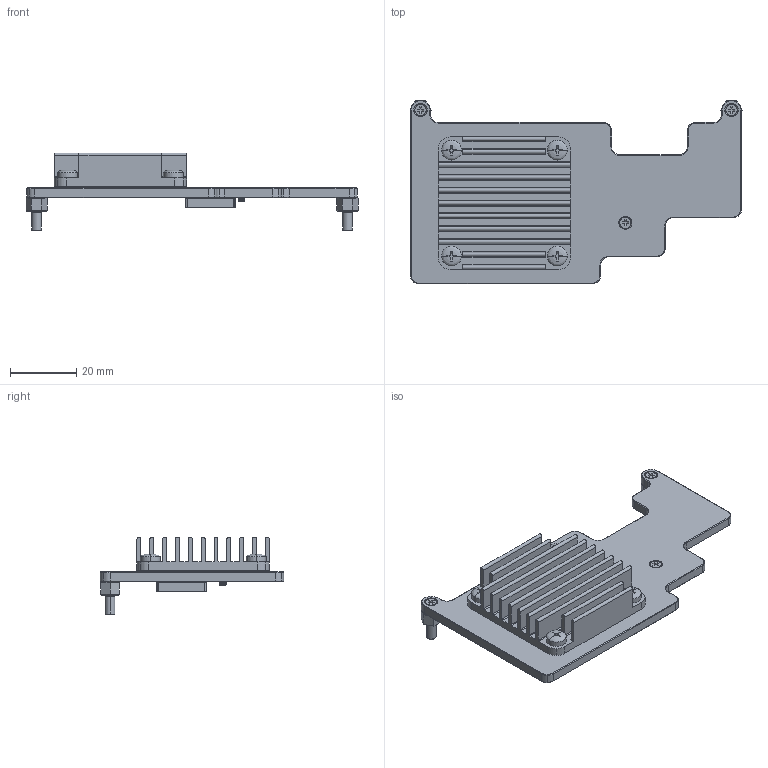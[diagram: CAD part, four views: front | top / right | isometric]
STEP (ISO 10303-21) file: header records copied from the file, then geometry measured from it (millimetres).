
FILE_DESCRIPTION(('STEP AP242'),'1');
FILE_NAME('armStoneMX8MP-Cooling.stp','2022-10-26T07:57:04',(' '),(' '),'Spatial InterOp 3D',' ',' ');
FILE_SCHEMA(('AP242_MANAGED_MODEL_BASED_3D_ENGINEERING_MIM_LF {1 0 10303 442 1 1 4}'));
Length unit declared in the file: millimetre
Products named in the file (13): MHS.AS8MP.1; Heatspreader; Screws; M2x5mm; Standoff; Standoff_4mm; Thermal-Pad-15x15mm; armStoneMX8MP-Cooling; MHS.AS8MP.2; Thermal-Pad-38x38mm; Heatsink 40x40mm; Screws2; M3x5mm
Assembly tree (18 placements, depth 4):
  armStoneMX8MP-Cooling
    MHS.AS8MP.1
      Heatspreader
      Screws
        M2x5mm  x3
      Standoff
        Standoff_4mm  x2
      Thermal-Pad-15x15mm
    MHS.AS8MP.2
      Thermal-Pad-38x38mm
      Heatsink 40x40mm
      Screws2
        M3x5mm  x4
Bounding box: 100.35 x 55.55 x 23.5 mm (x, y, z)
Volume: 21484.5 mm3; surface area: 22926.1 mm2
Topology: 13 solids, 13 shells, 759 faces, 1979 edges, 1257 vertices
Faces by surface type: cylinder 322, plane 261, cone 140, torus 22, revolution 8, bspline 6
Entity records: 23815 total; most frequent: CARTESIAN_POINT 7913, DIRECTION 2494, ORIENTED_EDGE 2446, EDGE_CURVE 1223, AXIS2_PLACEMENT_3D 917, VERTEX_POINT 764, LINE 658, VECTOR 658
